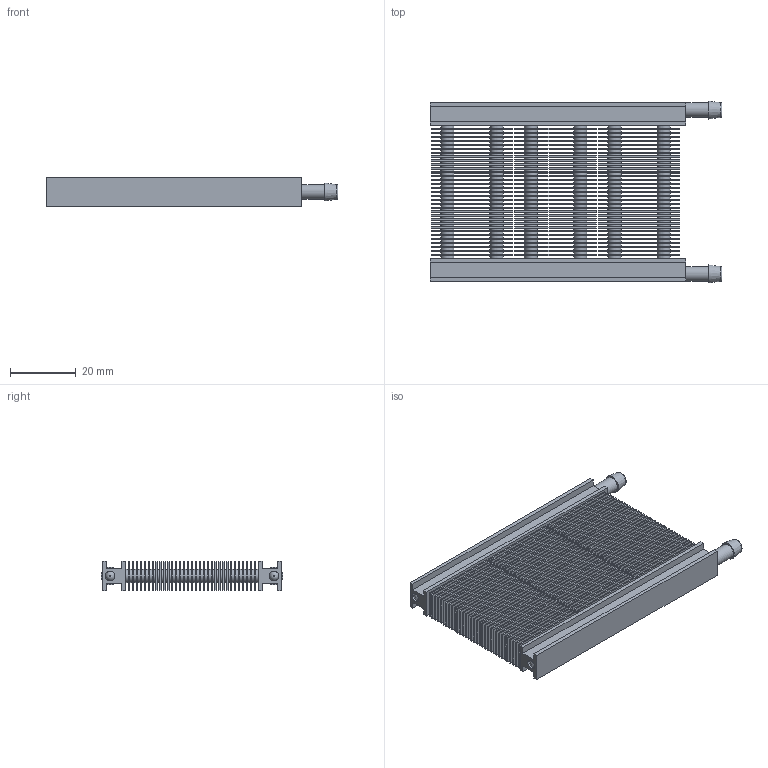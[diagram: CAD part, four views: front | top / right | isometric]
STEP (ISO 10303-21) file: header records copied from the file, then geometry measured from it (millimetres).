
FILE_DESCRIPTION (( 'STEP AP203' ), '1' );
FILE_NAME ('TCS-330 rev 1.STEP', '2018-06-20T13:18:53', ( '' ), ( '' ), 'SwSTEP 2.0', 'SolidWorks 2016', '' );
FILE_SCHEMA (( 'CONFIG_CONTROL_DESIGN' ));
Length unit declared in the file: millimetre
Products named in the file (7): P-0432; P-0567_Cut Length 47.2; P-0025; P-0566; P-0168; TCS-330 rev 1; P-0251
Assembly tree (315 placements, depth 2):
  TCS-330 rev 1
    P-0251  x2
    P-0432  x204
    P-0566  x99
    P-0567_Cut Length 47.2  x6
    P-0168  x2
    P-0025  x2
Bounding box: 89 x 55.48 x 9 mm (x, y, z)
Volume: 15878.3 mm3; surface area: 62873.3 mm2
Topology: 315 solids, 315 shells, 1831 faces, 3549 edges, 2366 vertices
Faces by surface type: plane 1068, cylinder 751, cone 8, sphere 2, torus 2
Full cylindrical faces by diameter (mm): 1.6 x6, 2 x12, 2.34 x6, 2.4 x204, 2.42 x12, 2.55 x297, 2.7 x2, 2.9 x2, 3.46 x2, 3.5 x2, 4 x204, 4.5 x2
Entity records: 12475 total; most frequent: DIRECTION 918, CARTESIAN_POINT 787, CALENDAR_DATE 665, DATE_AND_TIME 665, COORDINATED_UNIVERSAL_TIME_OFFSET 665, LOCAL_TIME 665, AXIS2_PLACEMENT_3D 435, PERSON_AND_ORGANIZATION 371
